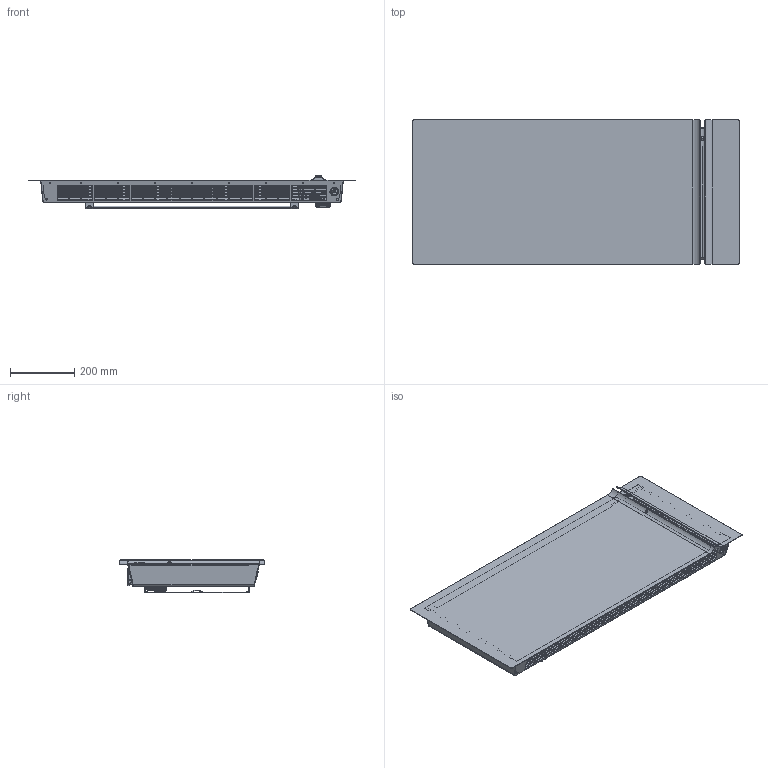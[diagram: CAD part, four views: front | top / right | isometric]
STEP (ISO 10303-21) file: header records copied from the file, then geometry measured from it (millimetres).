
FILE_DESCRIPTION(('FreeCAD Model'),'2;1');
FILE_NAME('Open CASCADE Shape Model','2026-06-03T13:44:09',(''),(''), 'Open CASCADE STEP processor 7.8','FreeCAD','Unknown');
FILE_SCHEMA(('AUTOMOTIVE_DESIGN { 1 0 10303 214 1 1 1 1 }'));
Length unit declared in the file: millimetre
Products named in the file (23): Unnamed; RMV_POSTERIORE-1500W; RMV_GR-SCATOLA-COMANDI_ASM; RMV_FONDO-SCATOLA-COMANDI; RMV_COPERCHIO-SCATOLA-COMANDI; RMV_SUPPORTO-SONDA; RMV_GR-FRONTALE_MET_1500W_ASM; RMV_FRONTALE-DX; RMV_FRONTALE-SX_1500W; RMV_BARRA-FISSAGGIO-SUP_1500W; RMV_SUPPORTO-PIR-MET; RMV_GR-PIR-BOARD_ASM; RMV_PIR-BOARD; RMV_GR-DISPLAY_ASM; RMV_PROTEZIONE-TRASPARE-DISPLAY; RMV_COPERTURA-SUPERIORE-COMANDI; SOLID016; RMV_GR-SUPPORTO-MURALE_15-20_ASM; KLI_TRAVERSA-SUPPORTO_MAX; RMV_GR-ASTA-SUPPORTO-MURALE_ASM; RMV_STAFFA-SUPPORTO-MURALE; RMV_GR-ASTA-SUPPORTO-MURALE_ASM001; WFB_COPERCHIO
Assembly tree (23 placements, depth 4):
  Unnamed
    RMV_POSTERIORE-1500W
    RMV_GR-SCATOLA-COMANDI_ASM
      RMV_FONDO-SCATOLA-COMANDI
      RMV_COPERCHIO-SCATOLA-COMANDI
    RMV_SUPPORTO-SONDA
    RMV_GR-FRONTALE_MET_1500W_ASM
      RMV_FRONTALE-DX
      RMV_FRONTALE-SX_1500W
      RMV_BARRA-FISSAGGIO-SUP_1500W
    RMV_SUPPORTO-PIR-MET
    RMV_GR-PIR-BOARD_ASM
      RMV_PIR-BOARD
    RMV_GR-DISPLAY_ASM
      RMV_PROTEZIONE-TRASPARE-DISPLAY
    RMV_COPERTURA-SUPERIORE-COMANDI
      SOLID016
    RMV_GR-SUPPORTO-MURALE_15-20_ASM
      KLI_TRAVERSA-SUPPORTO_MAX
      RMV_GR-ASTA-SUPPORTO-MURALE_ASM
        RMV_STAFFA-SUPPORTO-MURALE
      RMV_GR-ASTA-SUPPORTO-MURALE_ASM001
        RMV_STAFFA-SUPPORTO-MURALE
    WFB_COPERCHIO
Bounding box: 1020 x 450 x 104.8 mm (x, y, z)
Volume: 1380917.7 mm3; surface area: 2356647.4 mm2
Topology: 15 solids, 15 shells, 5414 faces, 14892 edges, 9552 vertices
Faces by surface type: plane 3499, cylinder 991, bspline 483, cone 281, torus 114, sphere 28, extrusion 18
Entity records: 204450 total; most frequent: CARTESIAN_POINT 76487, ORIENTED_EDGE 29190, DIRECTION 22148, EDGE_CURVE 14595, VERTEX_POINT 9371, VECTOR 8810, LINE 8792, AXIS2_PLACEMENT_3D 6669
